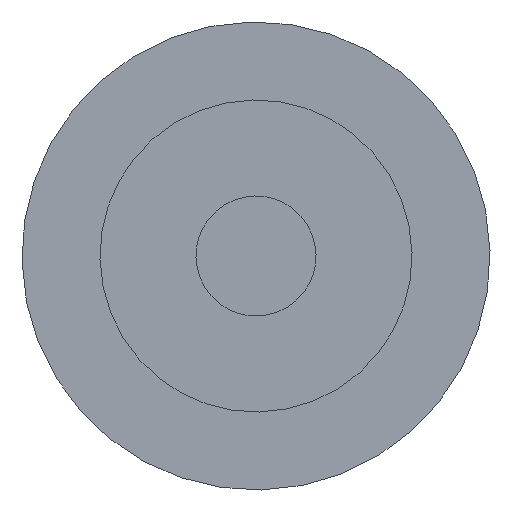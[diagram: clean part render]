
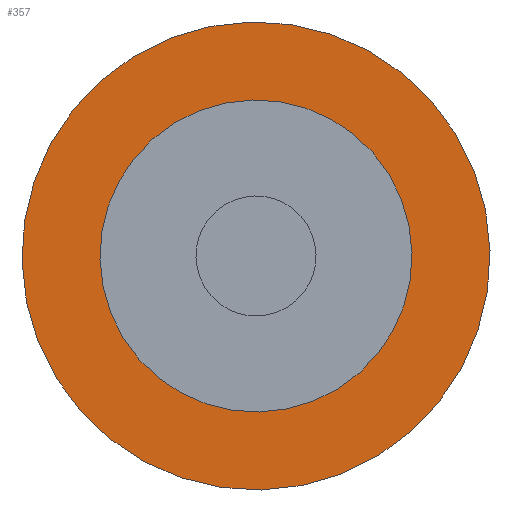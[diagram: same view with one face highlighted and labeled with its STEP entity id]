
A CAD part, front view. The second image highlights one B-rep face of the part: STEP entity #357.
In plain terms, the highlighted planar face has unit normal (0, -1, 0).
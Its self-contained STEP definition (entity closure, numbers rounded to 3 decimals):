
#308=AXIS2_PLACEMENT_3D('Circle Axis2P3D',#306,#307,$) ;
#320=AXIS2_PLACEMENT_3D('Circle Axis2P3D',#318,#319,$) ;
#333=AXIS2_PLACEMENT_3D('Plane Axis2P3D',#330,#331,#332) ;
#337=AXIS2_PLACEMENT_3D('Circle Axis2P3D',#335,#336,$) ;
#346=AXIS2_PLACEMENT_3D('Circle Axis2P3D',#344,#345,$) ;
#296=CARTESIAN_POINT('Vertex',(-0.623,6.27,-0.989)) ;
#303=CARTESIAN_POINT('Vertex',(0.623,6.27,1.293)) ;
#306=CARTESIAN_POINT('Axis2P3D Location',(0.,6.27,0.152)) ;
#318=CARTESIAN_POINT('Axis2P3D Location',(0.,6.27,0.152)) ;
#330=CARTESIAN_POINT('Axis2P3D Location',(0.,6.27,2.102)) ;
#335=CARTESIAN_POINT('Axis2P3D Location',(0.,6.27,0.152)) ;
#339=CARTESIAN_POINT('Vertex',(0.935,6.27,1.863)) ;
#341=CARTESIAN_POINT('Vertex',(-0.935,6.27,-1.559)) ;
#344=CARTESIAN_POINT('Axis2P3D Location',(0.,6.27,0.152)) ;
#307=DIRECTION('Axis2P3D Direction',(0.,1.,0.)) ;
#319=DIRECTION('Axis2P3D Direction',(0.,1.,0.)) ;
#331=DIRECTION('Axis2P3D Direction',(-0.,1.,0.)) ;
#332=DIRECTION('Axis2P3D XDirection',(1.,0.,0.)) ;
#336=DIRECTION('Axis2P3D Direction',(-0.,1.,0.)) ;
#345=DIRECTION('Axis2P3D Direction',(-0.,1.,0.)) ;
#350=ORIENTED_EDGE('',*,*,#343,.F.) ;
#351=ORIENTED_EDGE('',*,*,#348,.F.) ;
#354=ORIENTED_EDGE('',*,*,#310,.T.) ;
#355=ORIENTED_EDGE('',*,*,#322,.T.) ;
#356=FACE_BOUND('',#353,.T.) ;
#357=ADVANCED_FACE('Hauptk\X2\00F6\X0\rper',(#352,#356),#334,.F.) ;
#309=CIRCLE('generated circle',#308,1.3) ;
#321=CIRCLE('generated circle',#320,1.3) ;
#338=CIRCLE('generated circle',#337,1.95) ;
#347=CIRCLE('generated circle',#346,1.95) ;
#310=EDGE_CURVE('',#297,#304,#309,.T.) ;
#322=EDGE_CURVE('',#304,#297,#321,.T.) ;
#343=EDGE_CURVE('',#340,#342,#338,.T.) ;
#348=EDGE_CURVE('',#342,#340,#347,.T.) ;
#349=EDGE_LOOP('',(#350,#351)) ;
#353=EDGE_LOOP('',(#354,#355)) ;
#352=FACE_OUTER_BOUND('',#349,.T.) ;
#334=PLANE('',#333) ;
#297=VERTEX_POINT('',#296) ;
#304=VERTEX_POINT('',#303) ;
#340=VERTEX_POINT('',#339) ;
#342=VERTEX_POINT('',#341) ;
